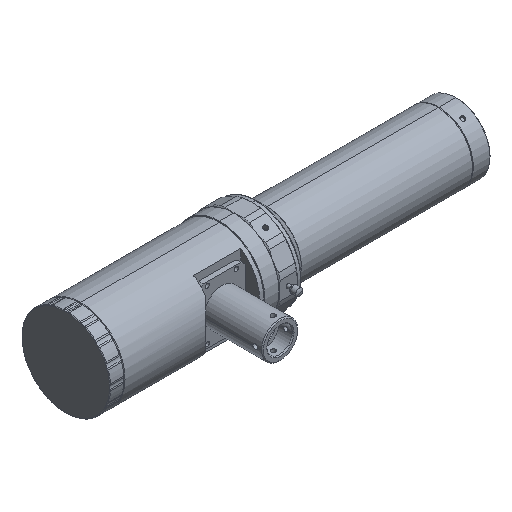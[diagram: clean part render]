
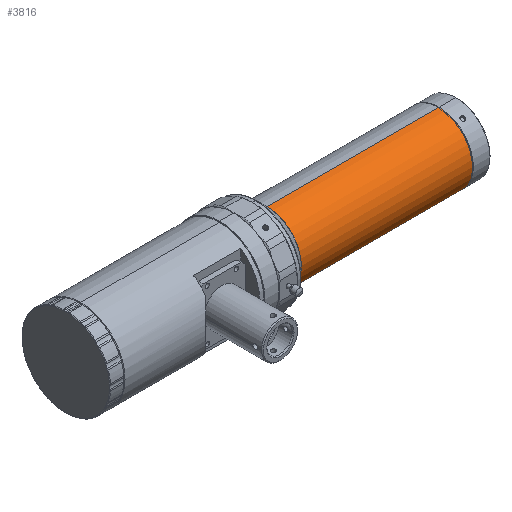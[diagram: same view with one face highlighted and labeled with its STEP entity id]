
A CAD part, isometric view. The second image highlights one B-rep face of the part: STEP entity #3816.
In plain terms, the highlighted cylindrical face has radius 19 mm (diameter 38 mm), a partial arc.
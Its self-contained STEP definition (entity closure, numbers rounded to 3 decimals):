
#943 = FACE_OUTER_BOUND ( 'NONE', #2615, .T. ) ;
#953 = VERTEX_POINT ( 'NONE', #4377 ) ;
#1053 = CIRCLE ( 'NONE', #4018, 19. ) ;
#1072 = VERTEX_POINT ( 'NONE', #10223 ) ;
#1203 = VERTEX_POINT ( 'NONE', #8404 ) ;
#1944 = CIRCLE ( 'NONE', #7288, 19. ) ;
#2599 = VECTOR ( 'NONE', #8213, 1000. ) ;
#2615 = EDGE_LOOP ( 'NONE', ( #7264, #10832, #10594, #6222 ) ) ;
#3008 = CARTESIAN_POINT ( 'NONE',  ( -896.8, 0., 0. ) ) ;
#3273 = DIRECTION ( 'NONE',  ( -1., 0., 0. ) ) ;
#3499 = CARTESIAN_POINT ( 'NONE',  ( 206.14, 0., 19. ) ) ;
#3816 = ADVANCED_FACE ( 'NONE', ( #943 ), #5430, .T. ) ;
#3935 = AXIS2_PLACEMENT_3D ( 'NONE', #3008, #4901, #9700 ) ;
#4018 = AXIS2_PLACEMENT_3D ( 'NONE', #4359, #4277, #9085 ) ;
#4277 = DIRECTION ( 'NONE',  ( 1., 0., 0. ) ) ;
#4359 = CARTESIAN_POINT ( 'NONE',  ( 111.307, 0., 0. ) ) ;
#4377 = CARTESIAN_POINT ( 'NONE',  ( 111.307, 0., -19. ) ) ;
#4514 = VERTEX_POINT ( 'NONE', #3499 ) ;
#4901 = DIRECTION ( 'NONE',  ( -1., 0., 0. ) ) ;
#4999 = LINE ( 'NONE', #9842, #2599 ) ;
#5058 = DIRECTION ( 'NONE',  ( -1., 0., 0. ) ) ;
#5197 = DIRECTION ( 'NONE',  ( 0., 0., 1. ) ) ;
#5419 = EDGE_CURVE ( 'NONE', #1072, #953, #1053, .T. ) ;
#5430 = CYLINDRICAL_SURFACE ( 'NONE', #3935, 19. ) ;
#5578 = VECTOR ( 'NONE', #5058, 1000. ) ;
#6222 = ORIENTED_EDGE ( 'NONE', *, *, #5419, .T. ) ;
#6805 = EDGE_CURVE ( 'NONE', #1203, #4514, #1944, .T. ) ;
#7264 = ORIENTED_EDGE ( 'NONE', *, *, #11540, .F. ) ;
#7288 = AXIS2_PLACEMENT_3D ( 'NONE', #8940, #3273, #5197 ) ;
#8213 = DIRECTION ( 'NONE',  ( -1., 0., 0. ) ) ;
#8404 = CARTESIAN_POINT ( 'NONE',  ( 206.14, 0., -19. ) ) ;
#8573 = LINE ( 'NONE', #9784, #5578 ) ;
#8940 = CARTESIAN_POINT ( 'NONE',  ( 206.14, 0., 0. ) ) ;
#9085 = DIRECTION ( 'NONE',  ( 0., 0., 1. ) ) ;
#9700 = DIRECTION ( 'NONE',  ( 0., 0., 1. ) ) ;
#9784 = CARTESIAN_POINT ( 'NONE',  ( -896.8, 0., 19. ) ) ;
#9842 = CARTESIAN_POINT ( 'NONE',  ( -896.8, 0., -19. ) ) ;
#10223 = CARTESIAN_POINT ( 'NONE',  ( 111.307, 0., 19. ) ) ;
#10594 = ORIENTED_EDGE ( 'NONE', *, *, #11940, .T. ) ;
#10832 = ORIENTED_EDGE ( 'NONE', *, *, #6805, .T. ) ;
#11540 = EDGE_CURVE ( 'NONE', #1203, #953, #4999, .T. ) ;
#11940 = EDGE_CURVE ( 'NONE', #4514, #1072, #8573, .T. ) ;
